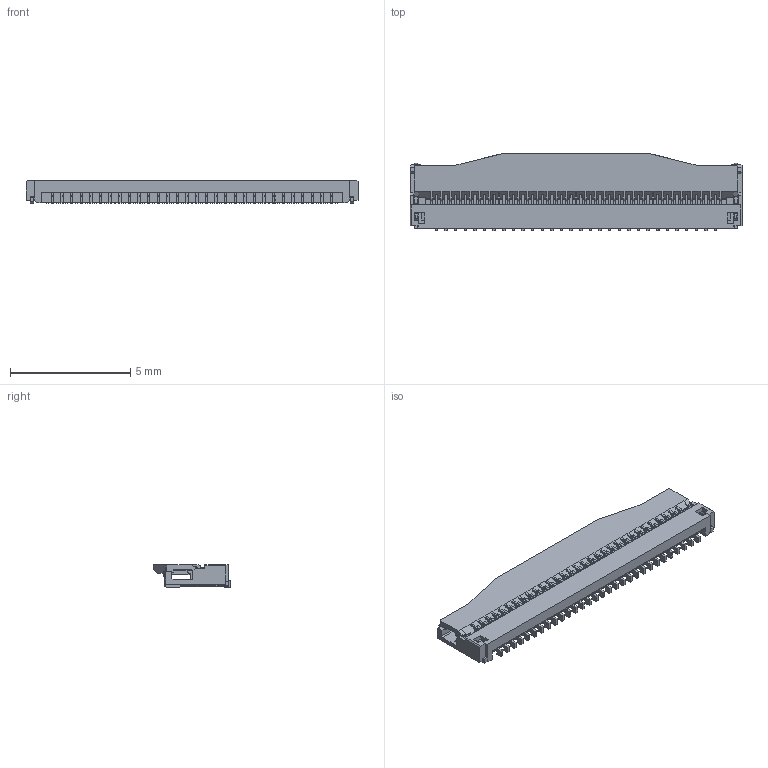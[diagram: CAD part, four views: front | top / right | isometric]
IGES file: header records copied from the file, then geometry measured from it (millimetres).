
Start section: SolidWorks IGES file using analytic representation for surfaces
Global section: file name: C:\Users\user\Desktop\04_6866_761_000_846_+.IGS; native system: SolidWorks 2014; preprocessor: SolidWorks 2014; author: user; date: 160225.160149; units: millimetre
Bounding box: 13.8 x 3.21 x 0.95 mm (x, y, z)
Surface area: 193.6 mm2 (no closed solid volume)
Topology: 0 solids, 0 shells, 1618 faces, 11460 edges, 11460 vertices
Faces by surface type: bspline 1239, revolution 379
